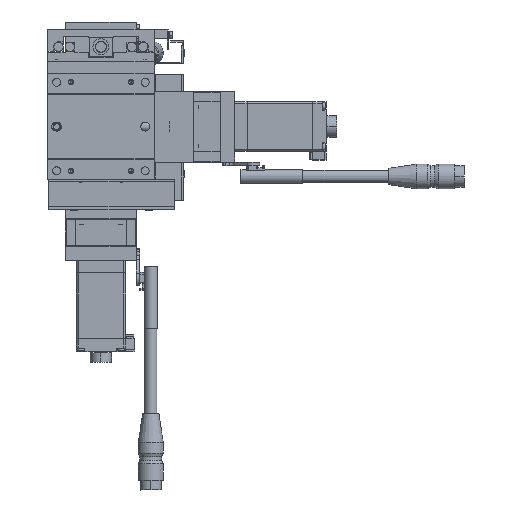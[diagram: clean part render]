
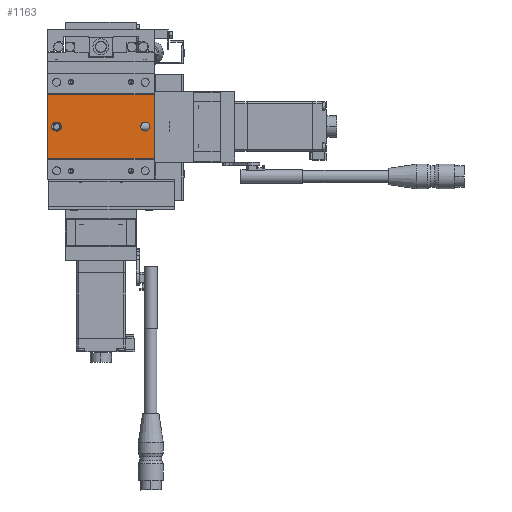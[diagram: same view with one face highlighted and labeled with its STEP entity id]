
A CAD part, front view. The second image highlights one B-rep face of the part: STEP entity #1163.
In plain terms, the highlighted planar face has unit normal (0, -1, 0).
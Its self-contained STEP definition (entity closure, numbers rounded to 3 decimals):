
#1163=ADVANCED_FACE('',(#3440,#3441,#3442),#3443,.F.);
#3440=FACE_BOUND('',#7794,.T.);
#3441=FACE_OUTER_BOUND('',#7795,.T.);
#3442=FACE_BOUND('',#7796,.T.);
#3443=PLANE('',#7797);
#7794=EDGE_LOOP('',(#13425,#13426,#13427,#13428));
#7795=EDGE_LOOP('',(#13429,#13430,#13431,#13432));
#7796=EDGE_LOOP('',(#13433,#13434,#13435));
#7797=AXIS2_PLACEMENT_3D('',#13436,#13437,#13438);
#13425=ORIENTED_EDGE('',*,*,#28332,.F.);
#13426=ORIENTED_EDGE('',*,*,#28333,.F.);
#13427=ORIENTED_EDGE('',*,*,#28334,.F.);
#13428=ORIENTED_EDGE('',*,*,#28335,.F.);
#13429=ORIENTED_EDGE('',*,*,#28317,.T.);
#13430=ORIENTED_EDGE('',*,*,#28336,.F.);
#13431=ORIENTED_EDGE('',*,*,#28337,.F.);
#13432=ORIENTED_EDGE('',*,*,#28338,.T.);
#13433=ORIENTED_EDGE('',*,*,#28222,.F.);
#13434=ORIENTED_EDGE('',*,*,#28221,.F.);
#13435=ORIENTED_EDGE('',*,*,#28339,.F.);
#13436=CARTESIAN_POINT('',(30.0,0.35,18.15));
#13437=DIRECTION('',(-0.0,1.0,0.));
#13438=DIRECTION('',(1.0,0.0,0.0));
#28221=EDGE_CURVE('',#33532,#33534,#33535,.F.);
#28222=EDGE_CURVE('',#33534,#33528,#33536,.F.);
#28317=EDGE_CURVE('',#33713,#33711,#33714,.T.);
#28332=EDGE_CURVE('',#33741,#33742,#33743,.F.);
#28333=EDGE_CURVE('',#33744,#33741,#33745,.T.);
#28334=EDGE_CURVE('',#33746,#33744,#33747,.F.);
#28335=EDGE_CURVE('',#33742,#33746,#33748,.T.);
#28336=EDGE_CURVE('',#33749,#33711,#33750,.T.);
#28337=EDGE_CURVE('',#33751,#33749,#33752,.T.);
#28338=EDGE_CURVE('',#33751,#33713,#33753,.T.);
#28339=EDGE_CURVE('',#33528,#33532,#33754,.F.);
#33528=VERTEX_POINT('',#42031);
#33532=VERTEX_POINT('',#42036);
#33534=VERTEX_POINT('',#42039);
#33535=CIRCLE('',#42040,2.5);
#33536=CIRCLE('',#42041,2.5);
#33711=VERTEX_POINT('',#42271);
#33713=VERTEX_POINT('',#42274);
#33714=LINE('',#42275,#42276);
#33741=VERTEX_POINT('',#42317);
#33742=VERTEX_POINT('',#42318);
#33743=CIRCLE('',#42319,2.5);
#33744=VERTEX_POINT('',#42320);
#33745=LINE('',#42321,#42322);
#33746=VERTEX_POINT('',#42323);
#33747=CIRCLE('',#42324,2.5);
#33748=LINE('',#42325,#42326);
#33749=VERTEX_POINT('',#42327);
#33750=LINE('',#42328,#42329);
#33751=VERTEX_POINT('',#42330);
#33752=LINE('',#42331,#42332);
#33753=LINE('',#42333,#42334);
#33754=CIRCLE('',#42335,2.5);
#42031=CARTESIAN_POINT('',(22.5,0.35,0.));
#42036=CARTESIAN_POINT('',(27.5,0.35,0.));
#42039=CARTESIAN_POINT('',(25.0,0.35,2.5));
#42040=AXIS2_PLACEMENT_3D('',#53403,#53404,#53405);
#42041=AXIS2_PLACEMENT_3D('',#53406,#53407,#53408);
#42271=CARTESIAN_POINT('',(-30.0,0.35,-18.15));
#42274=CARTESIAN_POINT('',(-30.0,0.35,18.15));
#42275=CARTESIAN_POINT('',(-30.0,0.35,18.15));
#42276=VECTOR('',#53579,1000.0);
#42317=CARTESIAN_POINT('',(-25.25,0.35,2.5));
#42318=CARTESIAN_POINT('',(-25.25,0.35,-2.5));
#42319=AXIS2_PLACEMENT_3D('',#53594,#53595,#53596);
#42320=CARTESIAN_POINT('',(-24.75,0.35,2.5));
#42321=CARTESIAN_POINT('',(30.0,0.35,2.5));
#42322=VECTOR('',#53597,1000.0);
#42323=CARTESIAN_POINT('',(-24.75,0.35,-2.5));
#42324=AXIS2_PLACEMENT_3D('',#53598,#53599,#53600);
#42325=CARTESIAN_POINT('',(30.0,0.35,-2.5));
#42326=VECTOR('',#53601,1000.0);
#42327=CARTESIAN_POINT('',(30.0,0.35,-18.15));
#42328=CARTESIAN_POINT('',(30.0,0.35,-18.15));
#42329=VECTOR('',#53602,1000.0);
#42330=CARTESIAN_POINT('',(30.0,0.35,18.15));
#42331=CARTESIAN_POINT('',(30.0,0.35,18.15));
#42332=VECTOR('',#53603,1000.0);
#42333=CARTESIAN_POINT('',(30.0,0.35,18.15));
#42334=VECTOR('',#53604,1000.0);
#42335=AXIS2_PLACEMENT_3D('',#53605,#53606,#53607);
#53403=CARTESIAN_POINT('',(25.0,0.35,0.0));
#53404=DIRECTION('',(0.0,1.0,0.));
#53405=DIRECTION('',(0.0,0.,1.0));
#53406=CARTESIAN_POINT('',(25.0,0.35,0.0));
#53407=DIRECTION('',(0.0,1.0,0.));
#53408=DIRECTION('',(0.0,0.,1.0));
#53579=DIRECTION('',(0.0,0.,-1.0));
#53594=CARTESIAN_POINT('',(-25.25,0.35,0.));
#53595=DIRECTION('',(0.0,1.0,0.));
#53596=DIRECTION('',(0.0,0.,1.0));
#53597=DIRECTION('',(-1.0,0.0,0.0));
#53598=CARTESIAN_POINT('',(-24.75,0.35,0.));
#53599=DIRECTION('',(0.0,1.0,0.));
#53600=DIRECTION('',(0.0,0.,1.0));
#53601=DIRECTION('',(1.0,0.0,0.0));
#53602=DIRECTION('',(-1.0,0.0,0.0));
#53603=DIRECTION('',(0.0,0.,-1.0));
#53604=DIRECTION('',(-1.0,0.0,0.0));
#53605=CARTESIAN_POINT('',(25.0,0.35,0.0));
#53606=DIRECTION('',(0.0,1.0,0.));
#53607=DIRECTION('',(0.0,0.,1.0));
